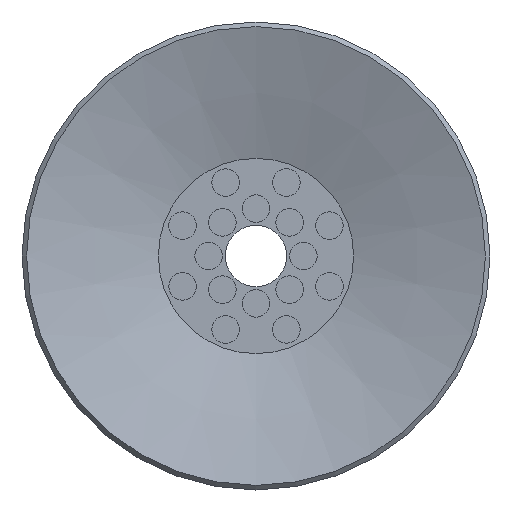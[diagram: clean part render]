
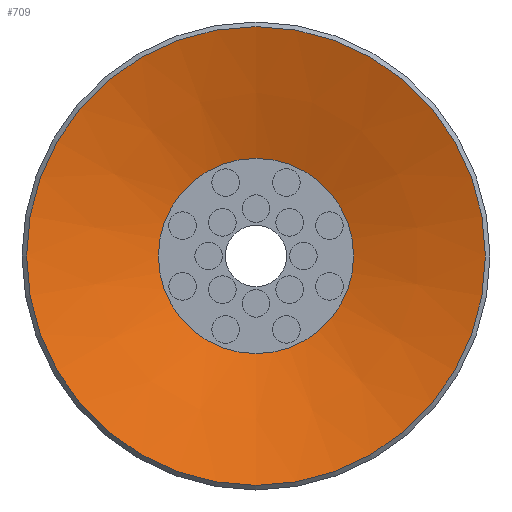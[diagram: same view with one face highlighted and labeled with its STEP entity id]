
A CAD part, front view. The second image highlights one B-rep face of the part: STEP entity #709.
In plain terms, the highlighted conical face has half-angle 72 degrees and reference radius 7.5 mm.
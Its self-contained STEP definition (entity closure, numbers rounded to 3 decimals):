
#709=ADVANCED_FACE('',(#1095,#1096),#1097,.F.);
#1095=FACE_BOUND('',#1558,.T.);
#1096=FACE_OUTER_BOUND('',#1559,.T.);
#1097=CONICAL_SURFACE('',#1560,7.5,1.257);
#1558=EDGE_LOOP('',(#2513));
#1559=EDGE_LOOP('',(#2514));
#1560=AXIS2_PLACEMENT_3D('',#2515,#2516,#2517);
#2513=ORIENTED_EDGE('',*,*,#2963,.T.);
#2514=ORIENTED_EDGE('',*,*,#2964,.F.);
#2515=CARTESIAN_POINT('',(0.0,0.,0.));
#2516=DIRECTION('',(0.0,0.,-1.0));
#2517=DIRECTION('',(0.0,1.0,0.));
#2963=EDGE_CURVE('',#3392,#3392,#3393,.T.);
#2964=EDGE_CURVE('',#3394,#3394,#3395,.T.);
#3392=VERTEX_POINT('',#4092);
#3393=CIRCLE('',#4093,3.191);
#3394=VERTEX_POINT('',#4094);
#3395=CIRCLE('',#4095,7.5);
#4092=CARTESIAN_POINT('',(0.0,-3.191,1.4));
#4093=AXIS2_PLACEMENT_3D('',#4555,#4556,#4557);
#4094=CARTESIAN_POINT('',(0.0,-7.5,0.));
#4095=AXIS2_PLACEMENT_3D('',#4558,#4559,#4560);
#4555=CARTESIAN_POINT('',(0.0,0.,1.4));
#4556=DIRECTION('',(0.0,0.,1.0));
#4557=DIRECTION('',(0.0,-1.0,0.));
#4558=CARTESIAN_POINT('',(0.0,0.,0.));
#4559=DIRECTION('',(0.0,0.,1.0));
#4560=DIRECTION('',(0.0,-1.0,0.));
